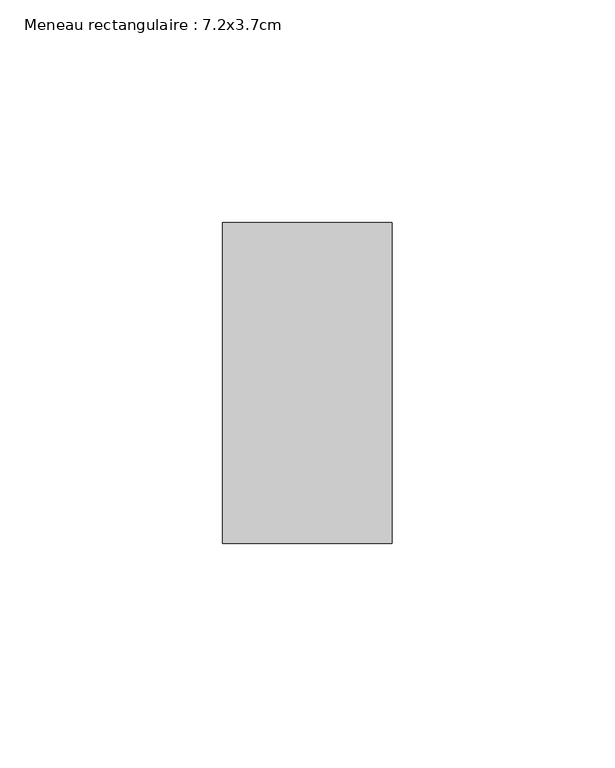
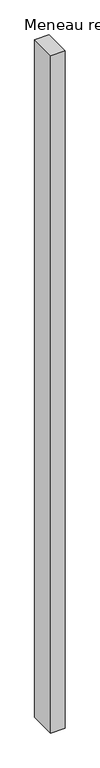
"""IFC4 building model written with IfcOpenShell, lengths in millimetres: member geometry, Meneau rectangulaire : 7.2x3.7cm."""

import ifcopenshell
import ifcopenshell.guid

model = None  # the IFC model being written
_history = None  # IfcOwnerHistory: only IFC2X3 demands one
_inside = {}  # id of a spatial element -> (the spatial element, [elements in it])
_under = {}  # id of a project, library or spatial element -> (it, [spatial elements below it])
_declared = {}  # id of a project -> (the project, [libraries it declares])
_typed = {}  # id of a type object -> (the type object, [elements of that type])
_made_of = {}  # id of a material, layer set ... -> (it, [elements and type objects made of it])


def new_model(schema):
    """Start an empty IFC model of exactly this schema.

    Asked for "IFC4X3", IfcOpenShell would pick the latest addendum, in which some entities
    have other attributes; the version numbers below select the first issue.
    IFC2X3 requires an IfcOwnerHistory on every rooted entity: one is made here for all.
    """
    global model, _history
    if schema == "IFC4X3":
        model = ifcopenshell.file(schema_version=(4, 3, 0, 0))
    else:
        model = ifcopenshell.file(schema=schema)
    _inside.clear()
    _under.clear()
    _declared.clear()
    _typed.clear()
    _made_of.clear()
    _history = None
    if model.schema == "IFC2X3":
        org = make("IfcOrganization", Name="unknown")
        user = make(
            "IfcPersonAndOrganization",
            ThePerson=make("IfcPerson", FamilyName="unknown"),
            TheOrganization=org,
        )
        app = make(
            "IfcApplication",
            ApplicationDeveloper=org,
            Version="unknown",
            ApplicationFullName="unknown",
            ApplicationIdentifier="unknown",
        )
        _history = make(
            "IfcOwnerHistory",
            OwningUser=user,
            OwningApplication=app,
            ChangeAction="ADDED",
            CreationDate=0,
        )
    return model


def make(cls, **values):
    """One entity of the class cls with the attributes given. An attribute that is None is left unset."""
    return model.create_entity(
        cls, **{name: value for name, value in values.items() if value is not None}
    )


def rooted(cls, **values):
    """An entity with a GlobalId (a new one), such as an element, a storey or a relation."""
    return make(cls, GlobalId=ifcopenshell.guid.new(), OwnerHistory=_history, **values)


def si_unit(unit_type, name, prefix=None):
    """IfcSIUnit, for example si_unit("LENGTHUNIT", "METRE", prefix="MILLI")."""
    return make("IfcSIUnit", UnitType=unit_type, Prefix=prefix, Name=name)


def assignment(units):
    """IfcUnitAssignment: the units of a project."""
    return None if units is None else make("IfcUnitAssignment", Units=units)


def point(xyz):
    """IfcCartesianPoint."""
    return None if xyz is None else make("IfcCartesianPoint", Coordinates=xyz)


def direction(xyz):
    """IfcDirection."""
    return None if xyz is None else make("IfcDirection", DirectionRatios=xyz)


def frame(location, z_axis=None, x_axis=None):
    """IfcAxis2Placement3D, a coordinate frame: its origin and axes. An axis left out is left unset."""
    return make(
        "IfcAxis2Placement3D",
        Location=point(location),
        Axis=direction(z_axis),
        RefDirection=direction(x_axis),
    )


def origin():
    """The frame at (0, 0, 0) with its axes left unset."""
    return frame((0.0, 0.0, 0.0))


def place(relative_to, where):
    """IfcLocalPlacement: puts the frame where relative to a parent placement (None: the world)."""
    return make(
        "IfcLocalPlacement", PlacementRelTo=relative_to, RelativePlacement=where
    )


def context(
    kind, dimensions, precision=None, world=None, true_north=None, identifier=None
):
    """IfcGeometricRepresentationContext, for example the 3D "Model" context."""
    return make(
        "IfcGeometricRepresentationContext",
        ContextIdentifier=identifier,
        ContextType=kind,
        CoordinateSpaceDimension=dimensions,
        Precision=precision,
        WorldCoordinateSystem=world,
        TrueNorth=true_north,
    )


def project(units=None, contexts=None):
    """IfcProject with its units and contexts."""
    return rooted(
        "IfcProject",
        Name="project",
        RepresentationContexts=contexts,
        UnitsInContext=assignment(units),
    )


def spatial(cls, under=None, at=None, **own):
    """A site, building, storey or space (cls), placed at a placement, below another one or the project."""
    s = rooted(cls, ObjectPlacement=at, **own)
    if under is not None:
        _under.setdefault(under.id(), (under, []))[1].append(s)
    return s


def polyline(points):
    """IfcPolyline through the points."""
    return make("IfcPolyline", Points=[point(p) for p in points])


def outline(outer, holes=None, kind="AREA"):
    """IfcArbitraryClosedProfileDef: a profile drawn as a closed curve; with holes, ...WithVoids."""
    if holes is None:
        return make("IfcArbitraryClosedProfileDef", ProfileType=kind, OuterCurve=outer)
    return make(
        "IfcArbitraryProfileDefWithVoids",
        ProfileType=kind,
        OuterCurve=outer,
        InnerCurves=holes,
    )


def extrude(swept, where, along, depth):
    """IfcExtrudedAreaSolid: the profile swept, set in the frame where, extruded along a direction by depth."""
    return make(
        "IfcExtrudedAreaSolid",
        SweptArea=swept,
        Position=where,
        ExtrudedDirection=direction(along),
        Depth=depth,
    )


def shape(context_of_items, identifier, shape_type, items):
    """IfcShapeRepresentation: the items that make up one representation, for example the "Body"."""
    return make(
        "IfcShapeRepresentation",
        ContextOfItems=context_of_items,
        RepresentationIdentifier=identifier,
        RepresentationType=shape_type,
        Items=items,
    )


def source(mapping_origin, context_of_items, identifier, shape_type, items):
    """IfcRepresentationMap: a shape defined once, which mapped items show again and again."""
    return make(
        "IfcRepresentationMap",
        MappingOrigin=mapping_origin,
        MappedRepresentation=shape(context_of_items, identifier, shape_type, items),
    )


def transform(
    local_origin,
    x_axis=None,
    y_axis=None,
    z_axis=None,
    scale=None,
    scale2=None,
    scale3=None,
    uniform=True,
):
    """IfcCartesianTransformationOperator3D, or its non-uniform kind. x_axis, y_axis, z_axis: its Axis1, 2, 3."""
    if uniform:
        return make(
            "IfcCartesianTransformationOperator3D",
            Axis1=direction(x_axis),
            Axis2=direction(y_axis),
            LocalOrigin=point(local_origin),
            Scale=scale,
            Axis3=direction(z_axis),
        )
    return make(
        "IfcCartesianTransformationOperator3DnonUniform",
        Axis1=direction(x_axis),
        Axis2=direction(y_axis),
        LocalOrigin=point(local_origin),
        Scale=scale,
        Axis3=direction(z_axis),
        Scale2=scale2,
        Scale3=scale3,
    )


def mapped(mapping_source, mapping_target):
    """IfcMappedItem: shows the shape of a source again, moved by a transform."""
    return make(
        "IfcMappedItem", MappingSource=mapping_source, MappingTarget=mapping_target
    )


def made_of(thing, what):
    """Note that an element or type object is made of a material, layer set ...; save() writes the relation."""
    if what is not None:
        _made_of.setdefault(what.id(), (what, []))[1].append(thing)
    return thing


def element(
    cls,
    number,
    at=None,
    inside=None,
    cuts=None,
    type_object=None,
    material=None,
    context=None,
    identifier="Body",
    shape_type=None,
    held_by="IfcProductDefinitionShape",
    body=None,
    shapes=None,
    **own,
):
    """One element of the class cls, such as IfcWall. Its Tag is "e" and its number.

    at: its placement. inside: the storey or other place that contains it. cuts: it is an
    opening in that element (IfcRelVoidsElement). A single representation is given by context,
    identifier, shape_type and body (its items); several are given by shapes. held_by: the class
    of the entity that holds the representations. save() writes the other relations.
    """
    e = rooted(cls, Tag="e%d" % number, ObjectPlacement=at, **own)
    if body is not None:
        shapes = [shape(context, identifier, shape_type, body)]
    if shapes is not None:
        e.Representation = make(held_by, Representations=shapes)
    if inside is not None:
        _inside.setdefault(inside.id(), (inside, []))[1].append(e)
    if cuts is not None:
        rooted(
            "IfcRelVoidsElement", RelatingBuildingElement=cuts, RelatedOpeningElement=e
        )
    if type_object is not None:
        _typed.setdefault(type_object.id(), (type_object, []))[1].append(e)
    return made_of(e, material)


def aggregate(whole, parts):
    """IfcRelAggregates: a whole, such as a stair, and the parts it consists of."""
    return rooted("IfcRelAggregates", RelatingObject=whole, RelatedObjects=parts)


def save(model, path):
    """Write the relations noted so far, then the file.

    IfcRelAggregates (storeys below a building ...), IfcRelContainedInSpatialStructure (elements
    in a storey), IfcRelDefinesByType, IfcRelAssociatesMaterial and IfcRelDeclares: one each for
    every whole, place, type object, material and project.
    """
    for whole, parts in _under.values():
        aggregate(whole, parts)
    for where, things in _inside.values():
        rooted(
            "IfcRelContainedInSpatialStructure",
            RelatedElements=things,
            RelatingStructure=where,
        )
    for kind, things in _typed.values():
        rooted("IfcRelDefinesByType", RelatedObjects=things, RelatingType=kind)
    for what, things in _made_of.values():
        rooted("IfcRelAssociatesMaterial", RelatedObjects=things, RelatingMaterial=what)
    for by, libraries in _declared.values():
        rooted("IfcRelDeclares", RelatingContext=by, RelatedDefinitions=libraries)
    model.write(path)


def meneau_rectangulaire_7_2x3_7cm_a8aa9fa1(model_context):
    return source(origin(), model_context, "Body", "SweptSolid", [
        extrude(outline(polyline([(0.0, 36.0), (0.0, -36.0), (-38.0, -36.0), (-38.0, 36.0), (0.0, 36.0)])), frame((0.0, 0.0, -1869.0), z_axis=(0.0, 0.0, 1.0), x_axis=(1.0, 0.0, 0.0)), (0.0, 0.0, 1.0), 1869.0),
    ])


if __name__ == "__main__":
    model = new_model("IFC4")
    model_context = context("Model", 3, world=origin())
    ifc_project = project(units=[si_unit("LENGTHUNIT", "METRE", prefix="MILLI")], contexts=[model_context])
    site = spatial("IfcSite", under=ifc_project)
    building = spatial("IfcBuilding", under=site)
    placement = place(None, origin())
    meneau_rectangulaire_7_2x3_7cm_shape = meneau_rectangulaire_7_2x3_7cm_a8aa9fa1(model_context)
    element("IfcMember", 1, ObjectType="Meneau rectangulaire : 7.2x3.7cm", at=placement, inside=building, context=model_context, shape_type="MappedRepresentation", body=[
        mapped(meneau_rectangulaire_7_2x3_7cm_shape, transform((0.0, 0.0, 0.0), x_axis=(1.0, 0.0, 0.0), y_axis=(0.0, 1.0, 0.0), z_axis=(0.0, 0.0, 1.0))),
    ])
    save(model, "model.ifc")
